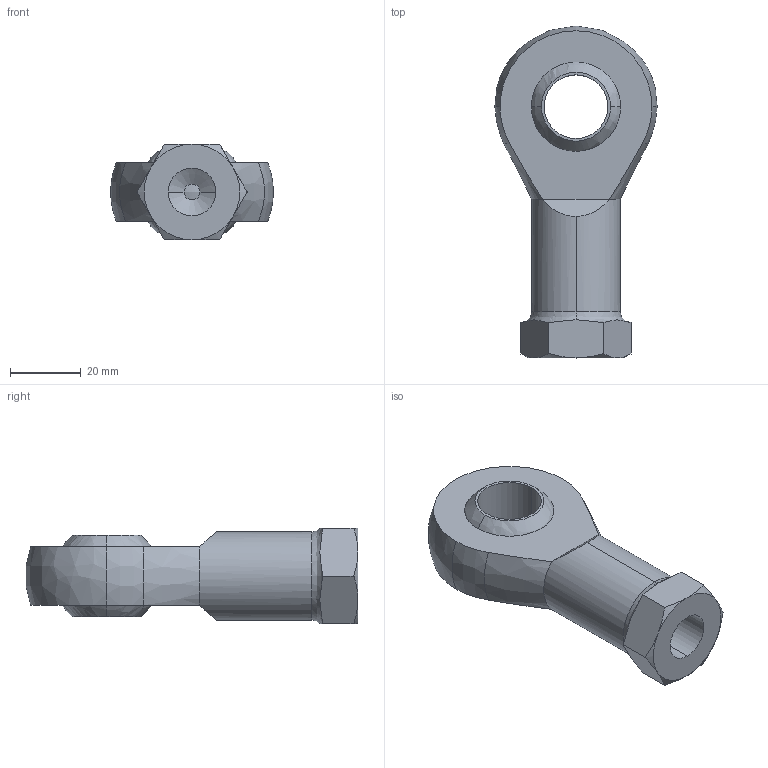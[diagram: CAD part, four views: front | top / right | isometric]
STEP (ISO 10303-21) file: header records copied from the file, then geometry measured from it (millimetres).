
FILE_DESCRIPTION (( 'STEP AP203' ), '1' );
FILE_NAME ('TSF18.STEP', '2013-09-19T09:37:16', ( '' ), ( '' ), 'SwSTEP 2.0', 'SolidWorks 2010', '' );
FILE_SCHEMA (( 'CONFIG_CONTROL_DESIGN' ));
Length unit declared in the file: millimetre
Products named in the file (1): TSF18
Bounding box: 45.88 x 93.82 x 27 mm (x, y, z)
Volume: 42751.8 mm3; surface area: 15757.6 mm2
Topology: 2 solids, 2 shells, 52 faces, 136 edges, 84 vertices
Faces by surface type: cone 16, plane 15, bspline 13, cylinder 8
Entity records: 2201 total; most frequent: CARTESIAN_POINT 957, ORIENTED_EDGE 264, DIRECTION 217, EDGE_CURVE 132, AXIS2_PLACEMENT_3D 92, VERTEX_POINT 84, EDGE_LOOP 58, FACE_OUTER_BOUND 52
